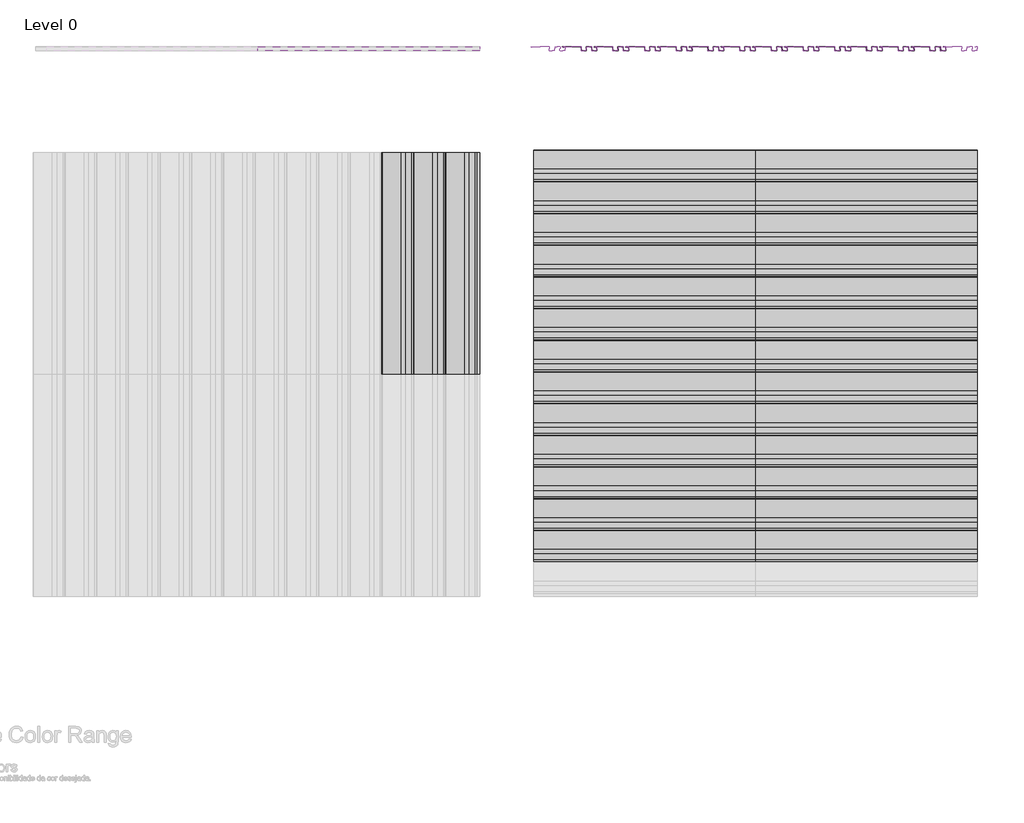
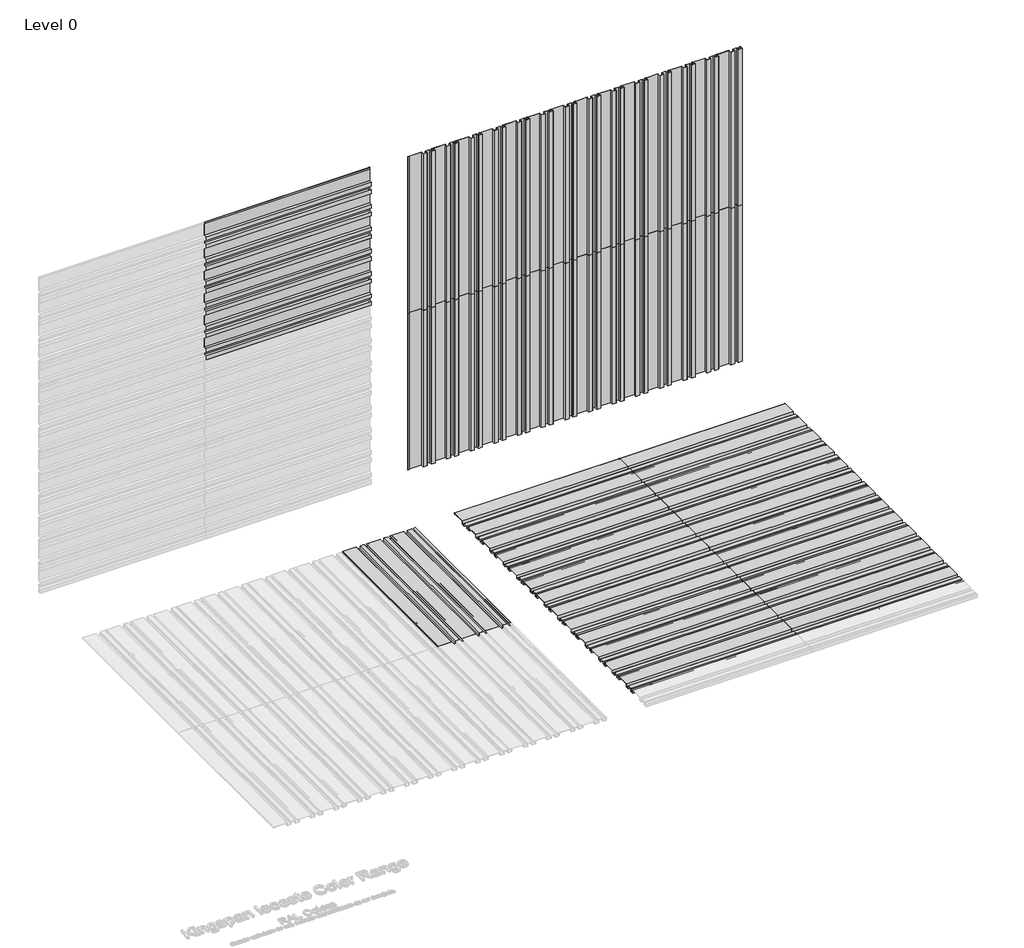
# One storey, part 2 of 2: 63 proxies.
"""IFC4 building model written with IfcOpenShell, lengths in millimetres."""

from ifc_helpers import new_model, si_unit, origin, place, context, project, spatial, transform, mapped, element, save
from components import mx3_0_standard_panel_ns_184cfff8, mx3_0_standard_panel_ns_9c684af8

model = new_model("IFC4")

# Units and contexts
model_context = context("Model", 3, world=origin())
ifc_project = project(units=[si_unit("LENGTHUNIT", "METRE", prefix="MILLI")], contexts=[model_context])

# Site, building, storey
site = spatial("IfcSite", under=ifc_project)
building = spatial("IfcBuilding", under=site)
storey = spatial("IfcBuildingStorey", under=building, Name="Level 0", Elevation=0.0)

# Proxies
placement = place(None, origin())
mx3_0_standard_panel_ns_shape = mx3_0_standard_panel_ns_184cfff8(model_context)
element("IfcBuildingElementProxy", 1, Name="MX3.0 : Standard Panel_NS", ObjectType="MX3.0 : Standard Panel_NS", at=placement, inside=storey, context=model_context, shape_type="MappedRepresentation", body=[
    mapped(mx3_0_standard_panel_ns_shape, transform((2489.7088665, 5063.0274074, 0.0), x_axis=(0.0, 0.0, 1.0), y_axis=(-1.0, 0.0, 0.0), z_axis=(0.0, -1.0, 0.0))),
])
element("IfcBuildingElementProxy", 2, Name="MX3.0 : Standard Panel_NS", ObjectType="MX3.0 : Standard Panel_NS", at=placement, inside=storey, context=model_context, shape_type="MappedRepresentation", body=[
    mapped(mx3_0_standard_panel_ns_shape, transform((2489.7088665, 5063.0274074, 2100.0), x_axis=(0.0, 0.0, 1.0), y_axis=(-1.0, 0.0, 0.0), z_axis=(0.0, -1.0, 0.0))),
])
element("IfcBuildingElementProxy", 3, Name="MX3.0 : Standard Panel_NS", ObjectType="MX3.0 : Standard Panel_NS", at=placement, inside=storey, context=model_context, shape_type="MappedRepresentation", body=[
    mapped(mx3_0_standard_panel_ns_shape, transform((-1317.7637295, 5063.0274074, 3000.0), x_axis=(1.0, 0.0, 0.0), y_axis=(0.0, 0.0, 1.0), z_axis=(0.0, -1.0, 0.0))),
])
element("IfcBuildingElementProxy", 4, Name="MX3.0 : Standard Panel_NS", ObjectType="MX3.0 : Standard Panel_NS", at=placement, inside=storey, context=model_context, shape_type="MappedRepresentation", body=[
    mapped(mx3_0_standard_panel_ns_shape, transform((4889.7088665, 5063.0274074, 0.0), x_axis=(0.0, 0.0, 1.0), y_axis=(-1.0, 0.0, 0.0), z_axis=(0.0, -1.0, 0.0))),
])
element("IfcBuildingElementProxy", 5, Name="MX3.0 : Standard Panel_NS", ObjectType="MX3.0 : Standard Panel_NS", at=placement, inside=storey, context=model_context, shape_type="MappedRepresentation", body=[
    mapped(mx3_0_standard_panel_ns_shape, transform((4889.7088665, 5063.0274074, 2100.0), x_axis=(0.0, 0.0, 1.0), y_axis=(-1.0, 0.0, 0.0), z_axis=(0.0, -1.0, 0.0))),
])
mx3_0_standard_panel_ns_2_shape = mx3_0_standard_panel_ns_9c684af8(model_context)
element("IfcBuildingElementProxy", 6, Name="MX3.0 : Standard Panel_NS", ObjectType="MX3.0 : Standard Panel_NS", at=placement, inside=storey, context=model_context, shape_type="MappedRepresentation", body=[
    mapped(mx3_0_standard_panel_ns_2_shape, transform((1289.7088668, 458.3113453, 0.0), x_axis=(1.0, 0.0, 0.0), y_axis=(0.0, 1.0, 0.0), z_axis=(0.0, 0.0, 1.0))),
])
element("IfcBuildingElementProxy", 7, Name="MX3.0 : Standard Panel_NS", ObjectType="MX3.0 : Standard Panel_NS", at=placement, inside=storey, context=model_context, shape_type="MappedRepresentation", body=[
    mapped(mx3_0_standard_panel_ns_2_shape, transform((1289.7088668, 2858.3113453, 0.0), x_axis=(1.0, 0.0, 0.0), y_axis=(0.0, 1.0, 0.0), z_axis=(0.0, 0.0, 1.0))),
])
element("IfcBuildingElementProxy", 8, Name="MX3.0 : Standard Panel_NS", ObjectType="MX3.0 : Standard Panel_NS", at=placement, inside=storey, context=model_context, shape_type="MappedRepresentation", body=[
    mapped(mx3_0_standard_panel_ns_2_shape, transform((182.2362703, 1958.3113453, 0.0), x_axis=(0.0, 1.0, 0.0), y_axis=(-1.0, 0.0, 0.0), z_axis=(0.0, 0.0, 1.0))),
])
element("IfcBuildingElementProxy", 9, Name="MX3.0 : Standard Panel_NS", ObjectType="MX3.0 : Standard Panel_NS", at=placement, inside=storey, context=model_context, shape_type="MappedRepresentation", body=[
    mapped(mx3_0_standard_panel_ns_2_shape, transform((3389.7088668, 458.3113453, 0.0), x_axis=(1.0, 0.0, 0.0), y_axis=(0.0, 1.0, 0.0), z_axis=(0.0, 0.0, 1.0))),
])
element("IfcBuildingElementProxy", 10, Name="MX3.0 : Standard Panel_NS", ObjectType="MX3.0 : Standard Panel_NS", at=placement, inside=storey, context=model_context, shape_type="MappedRepresentation", body=[
    mapped(mx3_0_standard_panel_ns_2_shape, transform((3389.7088668, 2858.3113453, 0.0), x_axis=(1.0, 0.0, 0.0), y_axis=(0.0, 1.0, 0.0), z_axis=(0.0, 0.0, 1.0))),
])
element("IfcBuildingElementProxy", 11, Name="MX3.0 : Standard Panel_NS", ObjectType="MX3.0 : Standard Panel_NS", at=placement, inside=storey, context=model_context, shape_type="MappedRepresentation", body=[
    mapped(mx3_0_standard_panel_ns_shape, transform((3089.7088665, 5063.0274074, 0.0), x_axis=(0.0, 0.0, 1.0), y_axis=(-1.0, 0.0, 0.0), z_axis=(0.0, -1.0, 0.0))),
])
element("IfcBuildingElementProxy", 12, Name="MX3.0 : Standard Panel_NS", ObjectType="MX3.0 : Standard Panel_NS", at=placement, inside=storey, context=model_context, shape_type="MappedRepresentation", body=[
    mapped(mx3_0_standard_panel_ns_shape, transform((3089.7088665, 5063.0274074, 2100.0), x_axis=(0.0, 0.0, 1.0), y_axis=(-1.0, 0.0, 0.0), z_axis=(0.0, -1.0, 0.0))),
])
element("IfcBuildingElementProxy", 13, Name="MX3.0 : Standard Panel_NS", ObjectType="MX3.0 : Standard Panel_NS", at=placement, inside=storey, context=model_context, shape_type="MappedRepresentation", body=[
    mapped(mx3_0_standard_panel_ns_shape, transform((-1317.7637295, 5063.0274074, 2400.0), x_axis=(1.0, 0.0, 0.0), y_axis=(0.0, 0.0, 1.0), z_axis=(0.0, -1.0, 0.0))),
])
element("IfcBuildingElementProxy", 14, Name="MX3.0 : Standard Panel_NS", ObjectType="MX3.0 : Standard Panel_NS", at=placement, inside=storey, context=model_context, shape_type="MappedRepresentation", body=[
    mapped(mx3_0_standard_panel_ns_shape, transform((5489.7088666, 5063.0274074, 0.0), x_axis=(0.0, 0.0, 1.0), y_axis=(-1.0, 0.0, 0.0), z_axis=(0.0, -1.0, 0.0))),
])
element("IfcBuildingElementProxy", 15, Name="MX3.0 : Standard Panel_NS", ObjectType="MX3.0 : Standard Panel_NS", at=placement, inside=storey, context=model_context, shape_type="MappedRepresentation", body=[
    mapped(mx3_0_standard_panel_ns_shape, transform((5489.7088666, 5063.0274074, 2100.0), x_axis=(0.0, 0.0, 1.0), y_axis=(-1.0, 0.0, 0.0), z_axis=(0.0, -1.0, 0.0))),
])
element("IfcBuildingElementProxy", 16, Name="MX3.0 : Standard Panel_NS", ObjectType="MX3.0 : Standard Panel_NS", at=placement, inside=storey, context=model_context, shape_type="MappedRepresentation", body=[
    mapped(mx3_0_standard_panel_ns_2_shape, transform((1289.7088668, 2258.3113453, 0.0), x_axis=(1.0, 0.0, 0.0), y_axis=(0.0, 1.0, 0.0), z_axis=(0.0, 0.0, 1.0))),
])
element("IfcBuildingElementProxy", 17, Name="MX3.0 : Standard Panel_NS", ObjectType="MX3.0 : Standard Panel_NS", at=placement, inside=storey, context=model_context, shape_type="MappedRepresentation", body=[
    mapped(mx3_0_standard_panel_ns_2_shape, transform((782.2362705, 1958.3113453, 0.0), x_axis=(0.0, 1.0, 0.0), y_axis=(-1.0, 0.0, 0.0), z_axis=(0.0, 0.0, 1.0))),
])
element("IfcBuildingElementProxy", 18, Name="MX3.0 : Standard Panel_NS", ObjectType="MX3.0 : Standard Panel_NS", at=placement, inside=storey, context=model_context, shape_type="MappedRepresentation", body=[
    mapped(mx3_0_standard_panel_ns_2_shape, transform((3389.7088668, 2258.3113453, 0.0), x_axis=(1.0, 0.0, 0.0), y_axis=(0.0, 1.0, 0.0), z_axis=(0.0, 0.0, 1.0))),
])
element("IfcBuildingElementProxy", 19, Name="MX3.0 : Standard Panel_NS", ObjectType="MX3.0 : Standard Panel_NS", at=placement, inside=storey, context=model_context, shape_type="MappedRepresentation", body=[
    mapped(mx3_0_standard_panel_ns_2_shape, transform((1289.7088668, 1358.3113453, 0.0), x_axis=(1.0, 0.0, 0.0), y_axis=(0.0, 1.0, 0.0), z_axis=(0.0, 0.0, 1.0))),
])
element("IfcBuildingElementProxy", 20, Name="MX3.0 : Standard Panel_NS", ObjectType="MX3.0 : Standard Panel_NS", at=placement, inside=storey, context=model_context, shape_type="MappedRepresentation", body=[
    mapped(mx3_0_standard_panel_ns_2_shape, transform((1289.7088668, 3758.3113453, 0.0), x_axis=(1.0, 0.0, 0.0), y_axis=(0.0, 1.0, 0.0), z_axis=(0.0, 0.0, 1.0))),
])
element("IfcBuildingElementProxy", 21, Name="MX3.0 : Standard Panel_NS", ObjectType="MX3.0 : Standard Panel_NS", at=placement, inside=storey, context=model_context, shape_type="MappedRepresentation", body=[
    mapped(mx3_0_standard_panel_ns_2_shape, transform((3389.7088668, 1358.3113453, 0.0), x_axis=(1.0, 0.0, 0.0), y_axis=(0.0, 1.0, 0.0), z_axis=(0.0, 0.0, 1.0))),
])
element("IfcBuildingElementProxy", 22, Name="MX3.0 : Standard Panel_NS", ObjectType="MX3.0 : Standard Panel_NS", at=placement, inside=storey, context=model_context, shape_type="MappedRepresentation", body=[
    mapped(mx3_0_standard_panel_ns_2_shape, transform((3389.7088668, 3758.3113453, 0.0), x_axis=(1.0, 0.0, 0.0), y_axis=(0.0, 1.0, 0.0), z_axis=(0.0, 0.0, 1.0))),
])
element("IfcBuildingElementProxy", 23, Name="MX3.0 : Standard Panel_NS", ObjectType="MX3.0 : Standard Panel_NS", at=placement, inside=storey, context=model_context, shape_type="MappedRepresentation", body=[
    mapped(mx3_0_standard_panel_ns_shape, transform((1589.7088666, 5063.0274074, 0.0), x_axis=(0.0, 0.0, 1.0), y_axis=(-1.0, 0.0, 0.0), z_axis=(0.0, -1.0, 0.0))),
])
element("IfcBuildingElementProxy", 24, Name="MX3.0 : Standard Panel_NS", ObjectType="MX3.0 : Standard Panel_NS", at=placement, inside=storey, context=model_context, shape_type="MappedRepresentation", body=[
    mapped(mx3_0_standard_panel_ns_shape, transform((1589.7088666, 5063.0274074, 2100.0), x_axis=(0.0, 0.0, 1.0), y_axis=(-1.0, 0.0, 0.0), z_axis=(0.0, -1.0, 0.0))),
])
element("IfcBuildingElementProxy", 25, Name="MX3.0 : Standard Panel_NS", ObjectType="MX3.0 : Standard Panel_NS", at=placement, inside=storey, context=model_context, shape_type="MappedRepresentation", body=[
    mapped(mx3_0_standard_panel_ns_shape, transform((-1317.7637295, 5063.0274074, 3900.0), x_axis=(1.0, 0.0, 0.0), y_axis=(0.0, 0.0, 1.0), z_axis=(0.0, -1.0, 0.0))),
])
element("IfcBuildingElementProxy", 26, Name="MX3.0 : Standard Panel_NS", ObjectType="MX3.0 : Standard Panel_NS", at=placement, inside=storey, context=model_context, shape_type="MappedRepresentation", body=[
    mapped(mx3_0_standard_panel_ns_shape, transform((3989.7088665, 5063.0274074, 0.0), x_axis=(0.0, 0.0, 1.0), y_axis=(-1.0, 0.0, 0.0), z_axis=(0.0, -1.0, 0.0))),
])
element("IfcBuildingElementProxy", 27, Name="MX3.0 : Standard Panel_NS", ObjectType="MX3.0 : Standard Panel_NS", at=placement, inside=storey, context=model_context, shape_type="MappedRepresentation", body=[
    mapped(mx3_0_standard_panel_ns_shape, transform((3989.7088665, 5063.0274074, 2100.0), x_axis=(0.0, 0.0, 1.0), y_axis=(-1.0, 0.0, 0.0), z_axis=(0.0, -1.0, 0.0))),
])
element("IfcBuildingElementProxy", 28, Name="MX3.0 : Standard Panel_NS", ObjectType="MX3.0 : Standard Panel_NS", at=placement, inside=storey, context=model_context, shape_type="MappedRepresentation", body=[
    mapped(mx3_0_standard_panel_ns_shape, transform((2789.7088665, 5063.0274074, 0.0), x_axis=(0.0, 0.0, 1.0), y_axis=(-1.0, 0.0, 0.0), z_axis=(0.0, -1.0, 0.0))),
])
element("IfcBuildingElementProxy", 29, Name="MX3.0 : Standard Panel_NS", ObjectType="MX3.0 : Standard Panel_NS", at=placement, inside=storey, context=model_context, shape_type="MappedRepresentation", body=[
    mapped(mx3_0_standard_panel_ns_shape, transform((2789.7088665, 5063.0274074, 2100.0), x_axis=(0.0, 0.0, 1.0), y_axis=(-1.0, 0.0, 0.0), z_axis=(0.0, -1.0, 0.0))),
])
element("IfcBuildingElementProxy", 30, Name="MX3.0 : Standard Panel_NS", ObjectType="MX3.0 : Standard Panel_NS", at=placement, inside=storey, context=model_context, shape_type="MappedRepresentation", body=[
    mapped(mx3_0_standard_panel_ns_shape, transform((-1317.7637295, 5063.0274074, 2700.0), x_axis=(1.0, 0.0, 0.0), y_axis=(0.0, 0.0, 1.0), z_axis=(0.0, -1.0, 0.0))),
])
element("IfcBuildingElementProxy", 31, Name="MX3.0 : Standard Panel_NS", ObjectType="MX3.0 : Standard Panel_NS", at=placement, inside=storey, context=model_context, shape_type="MappedRepresentation", body=[
    mapped(mx3_0_standard_panel_ns_shape, transform((5189.7088665, 5063.0274074, 0.0), x_axis=(0.0, 0.0, 1.0), y_axis=(-1.0, 0.0, 0.0), z_axis=(0.0, -1.0, 0.0))),
])
element("IfcBuildingElementProxy", 32, Name="MX3.0 : Standard Panel_NS", ObjectType="MX3.0 : Standard Panel_NS", at=placement, inside=storey, context=model_context, shape_type="MappedRepresentation", body=[
    mapped(mx3_0_standard_panel_ns_shape, transform((5189.7088665, 5063.0274074, 2100.0), x_axis=(0.0, 0.0, 1.0), y_axis=(-1.0, 0.0, 0.0), z_axis=(0.0, -1.0, 0.0))),
])
element("IfcBuildingElementProxy", 33, Name="MX3.0 : Standard Panel_NS", ObjectType="MX3.0 : Standard Panel_NS", at=placement, inside=storey, context=model_context, shape_type="MappedRepresentation", body=[
    mapped(mx3_0_standard_panel_ns_shape, transform((2189.7088665, 5063.0274074, 0.0), x_axis=(0.0, 0.0, 1.0), y_axis=(-1.0, 0.0, 0.0), z_axis=(0.0, -1.0, 0.0))),
])
element("IfcBuildingElementProxy", 34, Name="MX3.0 : Standard Panel_NS", ObjectType="MX3.0 : Standard Panel_NS", at=placement, inside=storey, context=model_context, shape_type="MappedRepresentation", body=[
    mapped(mx3_0_standard_panel_ns_shape, transform((2189.7088665, 5063.0274074, 2100.0), x_axis=(0.0, 0.0, 1.0), y_axis=(-1.0, 0.0, 0.0), z_axis=(0.0, -1.0, 0.0))),
])
element("IfcBuildingElementProxy", 35, Name="MX3.0 : Standard Panel_NS", ObjectType="MX3.0 : Standard Panel_NS", at=placement, inside=storey, context=model_context, shape_type="MappedRepresentation", body=[
    mapped(mx3_0_standard_panel_ns_shape, transform((-1317.7637295, 5063.0274074, 3300.0), x_axis=(1.0, 0.0, 0.0), y_axis=(0.0, 0.0, 1.0), z_axis=(0.0, -1.0, 0.0))),
])
element("IfcBuildingElementProxy", 36, Name="MX3.0 : Standard Panel_NS", ObjectType="MX3.0 : Standard Panel_NS", at=placement, inside=storey, context=model_context, shape_type="MappedRepresentation", body=[
    mapped(mx3_0_standard_panel_ns_shape, transform((4589.7088665, 5063.0274074, 0.0), x_axis=(0.0, 0.0, 1.0), y_axis=(-1.0, 0.0, 0.0), z_axis=(0.0, -1.0, 0.0))),
])
element("IfcBuildingElementProxy", 37, Name="MX3.0 : Standard Panel_NS", ObjectType="MX3.0 : Standard Panel_NS", at=placement, inside=storey, context=model_context, shape_type="MappedRepresentation", body=[
    mapped(mx3_0_standard_panel_ns_shape, transform((4589.7088665, 5063.0274074, 2100.0), x_axis=(0.0, 0.0, 1.0), y_axis=(-1.0, 0.0, 0.0), z_axis=(0.0, -1.0, 0.0))),
])
element("IfcBuildingElementProxy", 38, Name="MX3.0 : Standard Panel_NS", ObjectType="MX3.0 : Standard Panel_NS", at=placement, inside=storey, context=model_context, shape_type="MappedRepresentation", body=[
    mapped(mx3_0_standard_panel_ns_shape, transform((1889.7088665, 5063.0274074, 0.0), x_axis=(0.0, 0.0, 1.0), y_axis=(-1.0, 0.0, 0.0), z_axis=(0.0, -1.0, 0.0))),
])
element("IfcBuildingElementProxy", 39, Name="MX3.0 : Standard Panel_NS", ObjectType="MX3.0 : Standard Panel_NS", at=placement, inside=storey, context=model_context, shape_type="MappedRepresentation", body=[
    mapped(mx3_0_standard_panel_ns_shape, transform((1889.7088665, 5063.0274074, 2100.0), x_axis=(0.0, 0.0, 1.0), y_axis=(-1.0, 0.0, 0.0), z_axis=(0.0, -1.0, 0.0))),
])
element("IfcBuildingElementProxy", 40, Name="MX3.0 : Standard Panel_NS", ObjectType="MX3.0 : Standard Panel_NS", at=placement, inside=storey, context=model_context, shape_type="MappedRepresentation", body=[
    mapped(mx3_0_standard_panel_ns_shape, transform((-1317.7637295, 5063.0274074, 3600.0), x_axis=(1.0, 0.0, 0.0), y_axis=(0.0, 0.0, 1.0), z_axis=(0.0, -1.0, 0.0))),
])
element("IfcBuildingElementProxy", 41, Name="MX3.0 : Standard Panel_NS", ObjectType="MX3.0 : Standard Panel_NS", at=placement, inside=storey, context=model_context, shape_type="MappedRepresentation", body=[
    mapped(mx3_0_standard_panel_ns_shape, transform((4289.7088665, 5063.0274074, 0.0), x_axis=(0.0, 0.0, 1.0), y_axis=(-1.0, 0.0, 0.0), z_axis=(0.0, -1.0, 0.0))),
])
element("IfcBuildingElementProxy", 42, Name="MX3.0 : Standard Panel_NS", ObjectType="MX3.0 : Standard Panel_NS", at=placement, inside=storey, context=model_context, shape_type="MappedRepresentation", body=[
    mapped(mx3_0_standard_panel_ns_shape, transform((4289.7088665, 5063.0274074, 2100.0), x_axis=(0.0, 0.0, 1.0), y_axis=(-1.0, 0.0, 0.0), z_axis=(0.0, -1.0, 0.0))),
])
element("IfcBuildingElementProxy", 43, Name="MX3.0 : Standard Panel_NS", ObjectType="MX3.0 : Standard Panel_NS", at=placement, inside=storey, context=model_context, shape_type="MappedRepresentation", body=[
    mapped(mx3_0_standard_panel_ns_shape, transform((3689.7088665, 5063.0274074, 0.0), x_axis=(0.0, 0.0, 1.0), y_axis=(-1.0, 0.0, 0.0), z_axis=(0.0, -1.0, 0.0))),
])
element("IfcBuildingElementProxy", 44, Name="MX3.0 : Standard Panel_NS", ObjectType="MX3.0 : Standard Panel_NS", at=placement, inside=storey, context=model_context, shape_type="MappedRepresentation", body=[
    mapped(mx3_0_standard_panel_ns_shape, transform((3689.7088665, 5063.0274074, 2100.0), x_axis=(0.0, 0.0, 1.0), y_axis=(-1.0, 0.0, 0.0), z_axis=(0.0, -1.0, 0.0))),
])
element("IfcBuildingElementProxy", 45, Name="MX3.0 : Standard Panel_NS", ObjectType="MX3.0 : Standard Panel_NS", at=placement, inside=storey, context=model_context, shape_type="MappedRepresentation", body=[
    mapped(mx3_0_standard_panel_ns_shape, transform((3389.7088665, 5063.0274074, 0.0), x_axis=(0.0, 0.0, 1.0), y_axis=(-1.0, 0.0, 0.0), z_axis=(0.0, -1.0, 0.0))),
])
element("IfcBuildingElementProxy", 46, Name="MX3.0 : Standard Panel_NS", ObjectType="MX3.0 : Standard Panel_NS", at=placement, inside=storey, context=model_context, shape_type="MappedRepresentation", body=[
    mapped(mx3_0_standard_panel_ns_shape, transform((3389.7088665, 5063.0274074, 2100.0), x_axis=(0.0, 0.0, 1.0), y_axis=(-1.0, 0.0, 0.0), z_axis=(0.0, -1.0, 0.0))),
])
element("IfcBuildingElementProxy", 47, Name="MX3.0 : Standard Panel_NS", ObjectType="MX3.0 : Standard Panel_NS", at=placement, inside=storey, context=model_context, shape_type="MappedRepresentation", body=[
    mapped(mx3_0_standard_panel_ns_2_shape, transform((1289.7088668, 158.3113453, 0.0), x_axis=(1.0, 0.0, 0.0), y_axis=(0.0, 1.0, 0.0), z_axis=(0.0, 0.0, 1.0))),
])
element("IfcBuildingElementProxy", 48, Name="MX3.0 : Standard Panel_NS", ObjectType="MX3.0 : Standard Panel_NS", at=placement, inside=storey, context=model_context, shape_type="MappedRepresentation", body=[
    mapped(mx3_0_standard_panel_ns_2_shape, transform((1289.7088668, 2558.3113453, 0.0), x_axis=(1.0, 0.0, 0.0), y_axis=(0.0, 1.0, 0.0), z_axis=(0.0, 0.0, 1.0))),
])
element("IfcBuildingElementProxy", 49, Name="MX3.0 : Standard Panel_NS", ObjectType="MX3.0 : Standard Panel_NS", at=placement, inside=storey, context=model_context, shape_type="MappedRepresentation", body=[
    mapped(mx3_0_standard_panel_ns_2_shape, transform((482.2362703, 1958.3113453, 0.0), x_axis=(0.0, 1.0, 0.0), y_axis=(-1.0, 0.0, 0.0), z_axis=(0.0, 0.0, 1.0))),
])
element("IfcBuildingElementProxy", 50, Name="MX3.0 : Standard Panel_NS", ObjectType="MX3.0 : Standard Panel_NS", at=placement, inside=storey, context=model_context, shape_type="MappedRepresentation", body=[
    mapped(mx3_0_standard_panel_ns_2_shape, transform((3389.7088668, 158.3113453, 0.0), x_axis=(1.0, 0.0, 0.0), y_axis=(0.0, 1.0, 0.0), z_axis=(0.0, 0.0, 1.0))),
])
element("IfcBuildingElementProxy", 51, Name="MX3.0 : Standard Panel_NS", ObjectType="MX3.0 : Standard Panel_NS", at=placement, inside=storey, context=model_context, shape_type="MappedRepresentation", body=[
    mapped(mx3_0_standard_panel_ns_2_shape, transform((3389.7088668, 2558.3113453, 0.0), x_axis=(1.0, 0.0, 0.0), y_axis=(0.0, 1.0, 0.0), z_axis=(0.0, 0.0, 1.0))),
])
element("IfcBuildingElementProxy", 52, Name="MX3.0 : Standard Panel_NS", ObjectType="MX3.0 : Standard Panel_NS", at=placement, inside=storey, context=model_context, shape_type="MappedRepresentation", body=[
    mapped(mx3_0_standard_panel_ns_2_shape, transform((1289.7088668, 758.3113453, 0.0), x_axis=(1.0, 0.0, 0.0), y_axis=(0.0, 1.0, 0.0), z_axis=(0.0, 0.0, 1.0))),
])
element("IfcBuildingElementProxy", 53, Name="MX3.0 : Standard Panel_NS", ObjectType="MX3.0 : Standard Panel_NS", at=placement, inside=storey, context=model_context, shape_type="MappedRepresentation", body=[
    mapped(mx3_0_standard_panel_ns_2_shape, transform((1289.7088668, 3158.3113453, 0.0), x_axis=(1.0, 0.0, 0.0), y_axis=(0.0, 1.0, 0.0), z_axis=(0.0, 0.0, 1.0))),
])
element("IfcBuildingElementProxy", 54, Name="MX3.0 : Standard Panel_NS", ObjectType="MX3.0 : Standard Panel_NS", at=placement, inside=storey, context=model_context, shape_type="MappedRepresentation", body=[
    mapped(mx3_0_standard_panel_ns_2_shape, transform((3389.7088668, 758.3113453, 0.0), x_axis=(1.0, 0.0, 0.0), y_axis=(0.0, 1.0, 0.0), z_axis=(0.0, 0.0, 1.0))),
])
element("IfcBuildingElementProxy", 55, Name="MX3.0 : Standard Panel_NS", ObjectType="MX3.0 : Standard Panel_NS", at=placement, inside=storey, context=model_context, shape_type="MappedRepresentation", body=[
    mapped(mx3_0_standard_panel_ns_2_shape, transform((3389.7088668, 3158.3113453, 0.0), x_axis=(1.0, 0.0, 0.0), y_axis=(0.0, 1.0, 0.0), z_axis=(0.0, 0.0, 1.0))),
])
element("IfcBuildingElementProxy", 56, Name="MX3.0 : Standard Panel_NS", ObjectType="MX3.0 : Standard Panel_NS", at=placement, inside=storey, context=model_context, shape_type="MappedRepresentation", body=[
    mapped(mx3_0_standard_panel_ns_2_shape, transform((1289.7088668, 1058.3113453, 0.0), x_axis=(1.0, 0.0, 0.0), y_axis=(0.0, 1.0, 0.0), z_axis=(0.0, 0.0, 1.0))),
])
element("IfcBuildingElementProxy", 57, Name="MX3.0 : Standard Panel_NS", ObjectType="MX3.0 : Standard Panel_NS", at=placement, inside=storey, context=model_context, shape_type="MappedRepresentation", body=[
    mapped(mx3_0_standard_panel_ns_2_shape, transform((1289.7088668, 3458.3113453, 0.0), x_axis=(1.0, 0.0, 0.0), y_axis=(0.0, 1.0, 0.0), z_axis=(0.0, 0.0, 1.0))),
])
element("IfcBuildingElementProxy", 58, Name="MX3.0 : Standard Panel_NS", ObjectType="MX3.0 : Standard Panel_NS", at=placement, inside=storey, context=model_context, shape_type="MappedRepresentation", body=[
    mapped(mx3_0_standard_panel_ns_2_shape, transform((3389.7088668, 1058.3113453, 0.0), x_axis=(1.0, 0.0, 0.0), y_axis=(0.0, 1.0, 0.0), z_axis=(0.0, 0.0, 1.0))),
])
element("IfcBuildingElementProxy", 59, Name="MX3.0 : Standard Panel_NS", ObjectType="MX3.0 : Standard Panel_NS", at=placement, inside=storey, context=model_context, shape_type="MappedRepresentation", body=[
    mapped(mx3_0_standard_panel_ns_2_shape, transform((3389.7088668, 3458.3113453, 0.0), x_axis=(1.0, 0.0, 0.0), y_axis=(0.0, 1.0, 0.0), z_axis=(0.0, 0.0, 1.0))),
])
element("IfcBuildingElementProxy", 60, Name="MX3.0 : Standard Panel_NS", ObjectType="MX3.0 : Standard Panel_NS", at=placement, inside=storey, context=model_context, shape_type="MappedRepresentation", body=[
    mapped(mx3_0_standard_panel_ns_2_shape, transform((1289.7088668, 1658.3113453, 0.0), x_axis=(1.0, 0.0, 0.0), y_axis=(0.0, 1.0, 0.0), z_axis=(0.0, 0.0, 1.0))),
])
element("IfcBuildingElementProxy", 61, Name="MX3.0 : Standard Panel_NS", ObjectType="MX3.0 : Standard Panel_NS", at=placement, inside=storey, context=model_context, shape_type="MappedRepresentation", body=[
    mapped(mx3_0_standard_panel_ns_2_shape, transform((3389.7088668, 1658.3113453, 0.0), x_axis=(1.0, 0.0, 0.0), y_axis=(0.0, 1.0, 0.0), z_axis=(0.0, 0.0, 1.0))),
])
element("IfcBuildingElementProxy", 62, Name="MX3.0 : Standard Panel_NS", ObjectType="MX3.0 : Standard Panel_NS", at=placement, inside=storey, context=model_context, shape_type="MappedRepresentation", body=[
    mapped(mx3_0_standard_panel_ns_2_shape, transform((1289.7088668, 1958.3113453, 0.0), x_axis=(1.0, 0.0, 0.0), y_axis=(0.0, 1.0, 0.0), z_axis=(0.0, 0.0, 1.0))),
])
element("IfcBuildingElementProxy", 63, Name="MX3.0 : Standard Panel_NS", ObjectType="MX3.0 : Standard Panel_NS", at=placement, inside=storey, context=model_context, shape_type="MappedRepresentation", body=[
    mapped(mx3_0_standard_panel_ns_2_shape, transform((3389.7088668, 1958.3113453, 0.0), x_axis=(1.0, 0.0, 0.0), y_axis=(0.0, 1.0, 0.0), z_axis=(0.0, 0.0, 1.0))),
])

save(model, "model.ifc")
